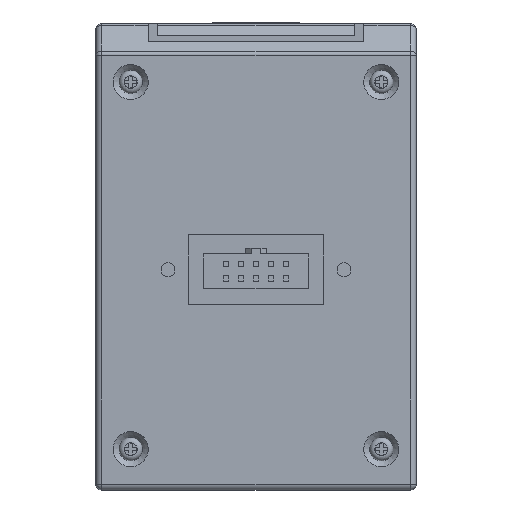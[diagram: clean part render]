
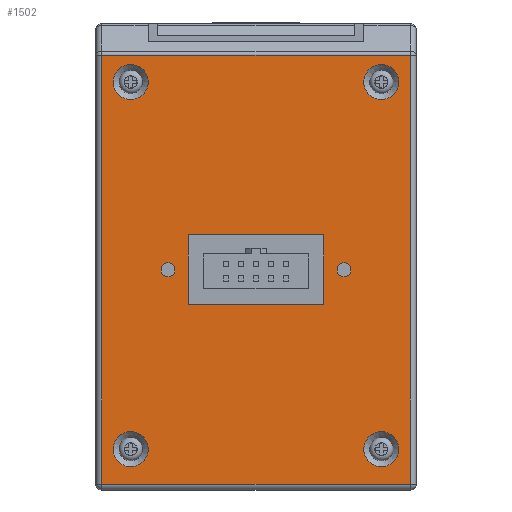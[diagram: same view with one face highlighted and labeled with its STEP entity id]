
A CAD part, left-side view. The second image highlights one B-rep face of the part: STEP entity #1502.
In plain terms, the highlighted planar face has unit normal (-1, 0, 0).
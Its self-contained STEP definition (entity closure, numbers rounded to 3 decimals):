
#1502=ADVANCED_FACE('',(#3983,#3985,#3987,#3989,#3991,#3993,#3995,#3997),#3999,.F.);
#3983=FACE_BOUND('',#3984,.T.);
#3984=EDGE_LOOP('',(#5920,#5921,#5922,#5923));
#3985=FACE_BOUND('',#3986,.T.);
#3986=EDGE_LOOP('',(#5924));
#3987=FACE_BOUND('',#3988,.T.);
#3988=EDGE_LOOP('',(#5925));
#3989=FACE_BOUND('',#3990,.T.);
#3990=EDGE_LOOP('',(#5926));
#3991=FACE_BOUND('',#3992,.T.);
#3992=EDGE_LOOP('',(#5927));
#3993=FACE_BOUND('',#3994,.T.);
#3994=EDGE_LOOP('',(#5928,#5929,#5930,#5931));
#3995=FACE_BOUND('',#3996,.T.);
#3996=EDGE_LOOP('',(#5932));
#3997=FACE_BOUND('',#3998,.T.);
#3998=EDGE_LOOP('',(#5933));
#3999=PLANE('',#4000);
#4000=AXIS2_PLACEMENT_3D('',#4001,#4002,#4003);
#4001=CARTESIAN_POINT('',(0.,0.,0.));
#4002=DIRECTION('',(1.,0.,0.));
#4003=DIRECTION('',(0.,1.,0.));
#5920=ORIENTED_EDGE('',*,*,#6979,.F.);
#5921=ORIENTED_EDGE('',*,*,#7055,.F.);
#5922=ORIENTED_EDGE('',*,*,#6985,.F.);
#5923=ORIENTED_EDGE('',*,*,#6982,.F.);
#5924=ORIENTED_EDGE('',*,*,#7056,.T.);
#5925=ORIENTED_EDGE('',*,*,#7057,.T.);
#5926=ORIENTED_EDGE('',*,*,#7058,.T.);
#5927=ORIENTED_EDGE('',*,*,#7059,.T.);
#5928=ORIENTED_EDGE('',*,*,#7060,.T.);
#5929=ORIENTED_EDGE('',*,*,#7061,.T.);
#5930=ORIENTED_EDGE('',*,*,#7062,.T.);
#5931=ORIENTED_EDGE('',*,*,#7063,.T.);
#5932=ORIENTED_EDGE('',*,*,#7064,.T.);
#5933=ORIENTED_EDGE('',*,*,#7065,.T.);
#6979=EDGE_CURVE('',#7996,#7998,#7999,.T.);
#6982=EDGE_CURVE('',#7998,#8002,#8003,.T.);
#6985=EDGE_CURVE('',#8002,#8006,#8007,.T.);
#7055=EDGE_CURVE('',#8006,#7996,#8111,.T.);
#7056=EDGE_CURVE('',#8112,#8112,#8113,.F.);
#7057=EDGE_CURVE('',#8114,#8114,#8115,.F.);
#7058=EDGE_CURVE('',#8116,#8116,#8117,.F.);
#7059=EDGE_CURVE('',#8118,#8118,#8119,.F.);
#7060=EDGE_CURVE('',#8120,#8121,#8122,.T.);
#7061=EDGE_CURVE('',#8121,#8123,#8124,.T.);
#7062=EDGE_CURVE('',#8123,#8125,#8126,.T.);
#7063=EDGE_CURVE('',#8125,#8120,#8127,.T.);
#7064=EDGE_CURVE('',#8128,#8128,#8129,.F.);
#7065=EDGE_CURVE('',#8130,#8130,#8131,.F.);
#7996=VERTEX_POINT('',#10108);
#7998=VERTEX_POINT('',#10113);
#7999=LINE('',#10114,#10115);
#8002=VERTEX_POINT('',#10125);
#8003=LINE('',#10126,#10127);
#8006=VERTEX_POINT('',#10137);
#8007=LINE('',#10138,#10139);
#8111=LINE('',#10391,#10392);
#8112=VERTEX_POINT('',#10394);
#8113=CIRCLE('',#10395,3.);
#8114=VERTEX_POINT('',#10399);
#8115=CIRCLE('',#10400,3.);
#8116=VERTEX_POINT('',#10404);
#8117=CIRCLE('',#10405,1.2);
#8118=VERTEX_POINT('',#10409);
#8119=CIRCLE('',#10410,1.2);
#8120=VERTEX_POINT('',#10414);
#8121=VERTEX_POINT('',#10415);
#8122=LINE('',#10416,#10417);
#8123=VERTEX_POINT('',#10419);
#8124=LINE('',#10420,#10421);
#8125=VERTEX_POINT('',#10423);
#8126=LINE('',#10424,#10425);
#8127=LINE('',#10427,#10428);
#8128=VERTEX_POINT('',#10430);
#8129=CIRCLE('',#10431,3.);
#8130=VERTEX_POINT('',#10435);
#8131=CIRCLE('',#10436,3.);
#10108=CARTESIAN_POINT('',(0.,-26.5,34.586));
#10113=CARTESIAN_POINT('',(0.,-26.5,-39.));
#10114=CARTESIAN_POINT('',(0.,-26.5,34.586));
#10115=VECTOR('',#10116,1.);
#10116=DIRECTION('',(0.,0.,-1.));
#10125=CARTESIAN_POINT('',(0.,26.5,-39.));
#10126=CARTESIAN_POINT('',(0.,-26.5,-39.));
#10127=VECTOR('',#10128,1.);
#10128=DIRECTION('',(0.,1.,0.));
#10137=CARTESIAN_POINT('',(0.,26.5,34.586));
#10138=CARTESIAN_POINT('',(0.,26.5,-39.));
#10139=VECTOR('',#10140,1.);
#10140=DIRECTION('',(0.,0.,1.));
#10391=CARTESIAN_POINT('',(0.,26.5,34.586));
#10392=VECTOR('',#10393,1.);
#10393=DIRECTION('',(0.,-1.,0.));
#10394=CARTESIAN_POINT('',(0.,-24.5,30.));
#10395=AXIS2_PLACEMENT_3D('',#10396,#10397,#10398);
#10396=CARTESIAN_POINT('',(0.,-21.5,30.));
#10397=DIRECTION('',(-1.,0.,0.));
#10398=DIRECTION('',(0.,-1.,0.));
#10399=CARTESIAN_POINT('',(0.,18.5,-33.));
#10400=AXIS2_PLACEMENT_3D('',#10401,#10402,#10403);
#10401=CARTESIAN_POINT('',(0.,21.5,-33.));
#10402=DIRECTION('',(-1.,0.,0.));
#10403=DIRECTION('',(0.,-1.,0.));
#10404=CARTESIAN_POINT('',(0.,-16.3,-2.2));
#10405=AXIS2_PLACEMENT_3D('',#10406,#10407,#10408);
#10406=CARTESIAN_POINT('',(0.,-15.1,-2.2));
#10407=DIRECTION('',(-1.,0.,0.));
#10408=DIRECTION('',(0.,-1.,0.));
#10409=CARTESIAN_POINT('',(0.,13.9,-2.2));
#10410=AXIS2_PLACEMENT_3D('',#10411,#10412,#10413);
#10411=CARTESIAN_POINT('',(0.,15.1,-2.2));
#10412=DIRECTION('',(-1.,0.,0.));
#10413=DIRECTION('',(0.,-1.,0.));
#10414=CARTESIAN_POINT('',(0.,11.6,3.8));
#10415=CARTESIAN_POINT('',(0.,-11.6,3.8));
#10416=CARTESIAN_POINT('',(0.,11.6,3.8));
#10417=VECTOR('',#10418,1.);
#10418=DIRECTION('',(0.,-1.,0.));
#10419=CARTESIAN_POINT('',(0.,-11.6,-8.2));
#10420=CARTESIAN_POINT('',(0.,-11.6,3.8));
#10421=VECTOR('',#10422,1.);
#10422=DIRECTION('',(0.,0.,-1.));
#10423=CARTESIAN_POINT('',(0.,11.6,-8.2));
#10424=CARTESIAN_POINT('',(0.,-11.6,-8.2));
#10425=VECTOR('',#10426,1.);
#10426=DIRECTION('',(0.,1.,0.));
#10427=CARTESIAN_POINT('',(0.,11.6,-8.2));
#10428=VECTOR('',#10429,1.);
#10429=DIRECTION('',(0.,0.,1.));
#10430=CARTESIAN_POINT('',(0.,18.5,30.));
#10431=AXIS2_PLACEMENT_3D('',#10432,#10433,#10434);
#10432=CARTESIAN_POINT('',(0.,21.5,30.));
#10433=DIRECTION('',(-1.,0.,0.));
#10434=DIRECTION('',(0.,-1.,0.));
#10435=CARTESIAN_POINT('',(0.,-24.5,-33.));
#10436=AXIS2_PLACEMENT_3D('',#10437,#10438,#10439);
#10437=CARTESIAN_POINT('',(0.,-21.5,-33.));
#10438=DIRECTION('',(-1.,0.,0.));
#10439=DIRECTION('',(0.,-1.,0.));
